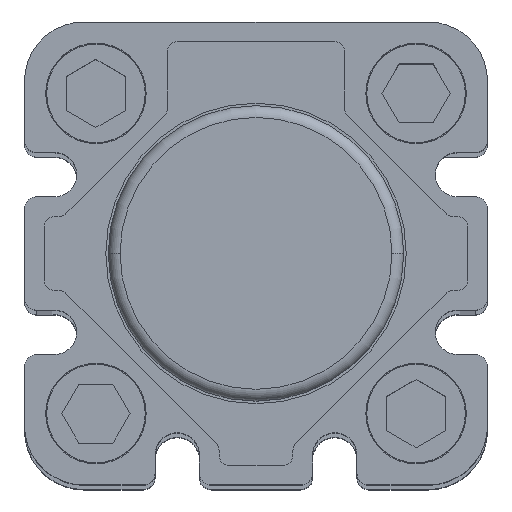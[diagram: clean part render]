
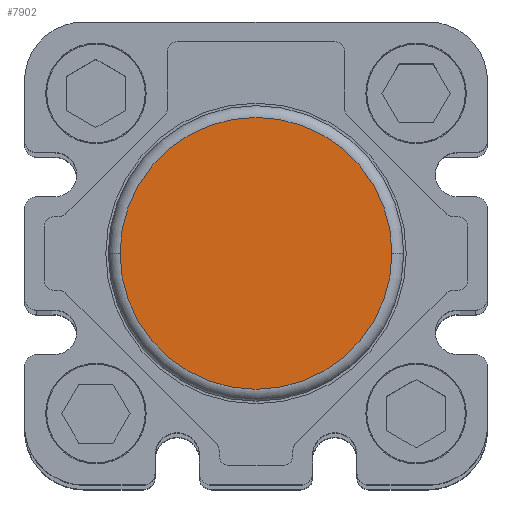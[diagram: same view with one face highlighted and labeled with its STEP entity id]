
A CAD part, top view. The second image highlights one B-rep face of the part: STEP entity #7902.
In plain terms, the highlighted planar face has unit normal (0, 0, 1).
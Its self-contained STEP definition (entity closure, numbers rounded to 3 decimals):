
#1450=CARTESIAN_POINT('',(7.45,-21.25,273.0));
#1451=VERTEX_POINT('',#1450);
#1459=CARTESIAN_POINT('',(35.05,-21.25,273.0));
#1460=VERTEX_POINT('',#1459);
#1461=CARTESIAN_POINT('',(21.25,-21.25,273.0));
#1462=DIRECTION('',(0.0,0.0,-1.0));
#1463=DIRECTION('',(-1.0,0.0,0.0));
#1464=AXIS2_PLACEMENT_3D('',#1461,#1462,#1463);
#1465=CIRCLE('',#1464,13.8);
#1466=EDGE_CURVE('',#1451,#1460,#1465,.T.);
#7871=CARTESIAN_POINT('',(21.25,-21.25,273.0));
#7872=DIRECTION('',(0.0,0.0,-1.0));
#7873=DIRECTION('',(-1.0,0.0,0.0));
#7874=AXIS2_PLACEMENT_3D('',#7871,#7872,#7873);
#7875=CIRCLE('',#7874,13.8);
#7876=EDGE_CURVE('',#1460,#1451,#7875,.T.);
#7893=CARTESIAN_POINT('',(21.25,-21.25,273.0));
#7894=DIRECTION('',(0.0,0.0,1.0));
#7895=DIRECTION('',(1.0,0.0,0.0));
#7896=AXIS2_PLACEMENT_3D('',#7893,#7894,#7895);
#7897=PLANE('',#7896);
#7898=ORIENTED_EDGE('',*,*,#7876,.F.);
#7899=ORIENTED_EDGE('',*,*,#1466,.F.);
#7900=EDGE_LOOP('',(#7898,#7899));
#7901=FACE_OUTER_BOUND('',#7900,.T.);
#7902=ADVANCED_FACE('',(#7901),#7897,.T.);
